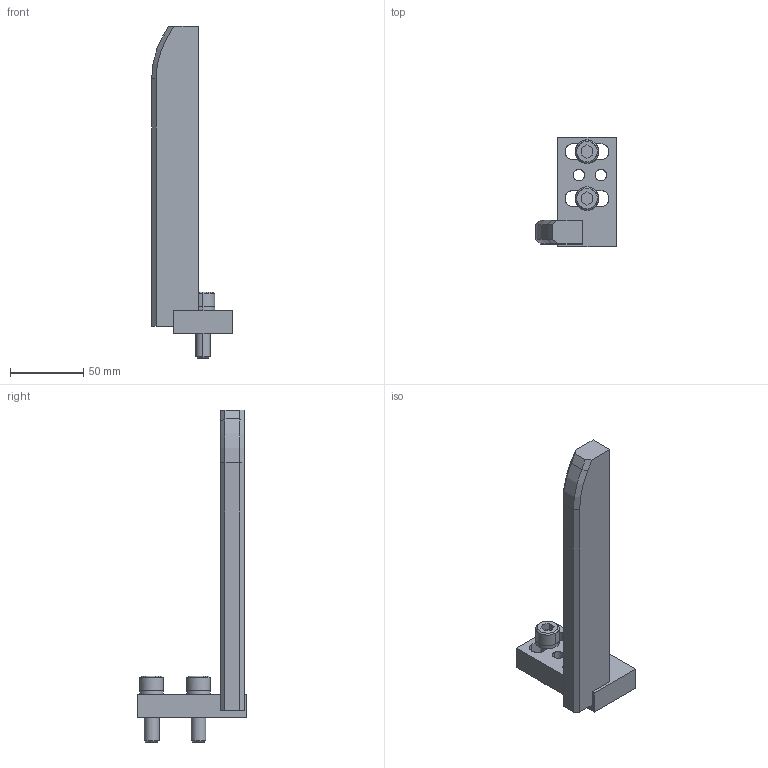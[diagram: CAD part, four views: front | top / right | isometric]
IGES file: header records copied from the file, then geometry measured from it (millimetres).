
Global section: file name: E:\UnigraphicsGraphicData\MISUMI_PRESS-PARTS\IGES\3d_ngnbl-210-20-m10_01545_r00.igs; native system: NX V5.0; preprocessor: UGS NX IGES V5.0; author: MISUMI; date: 20110105.162054; units: millimetre
Bounding box: 55 x 75 x 226.5 mm (x, y, z)
Surface area: 36763.8 mm2 (no closed solid volume)
Topology: 0 solids, 0 shells, 104 faces, 665 edges, 665 vertices
Faces by surface type: bspline 104
